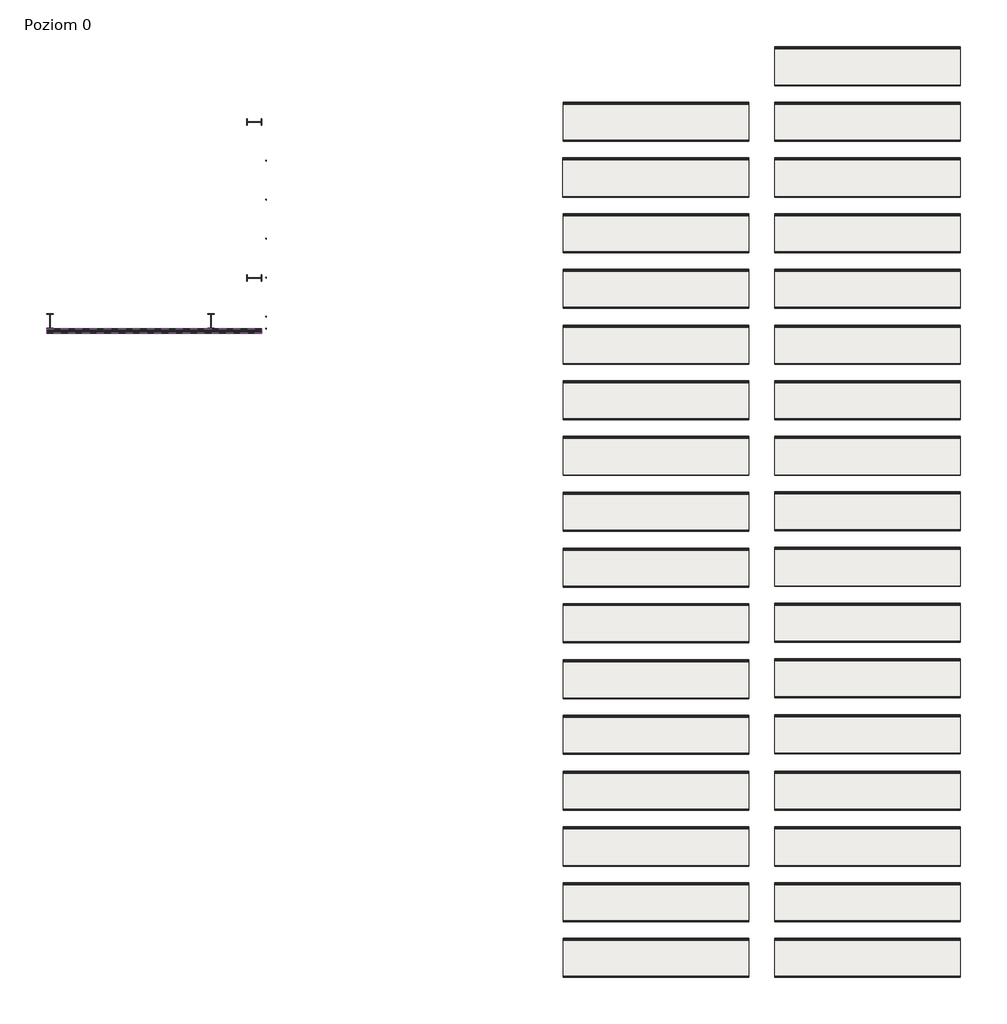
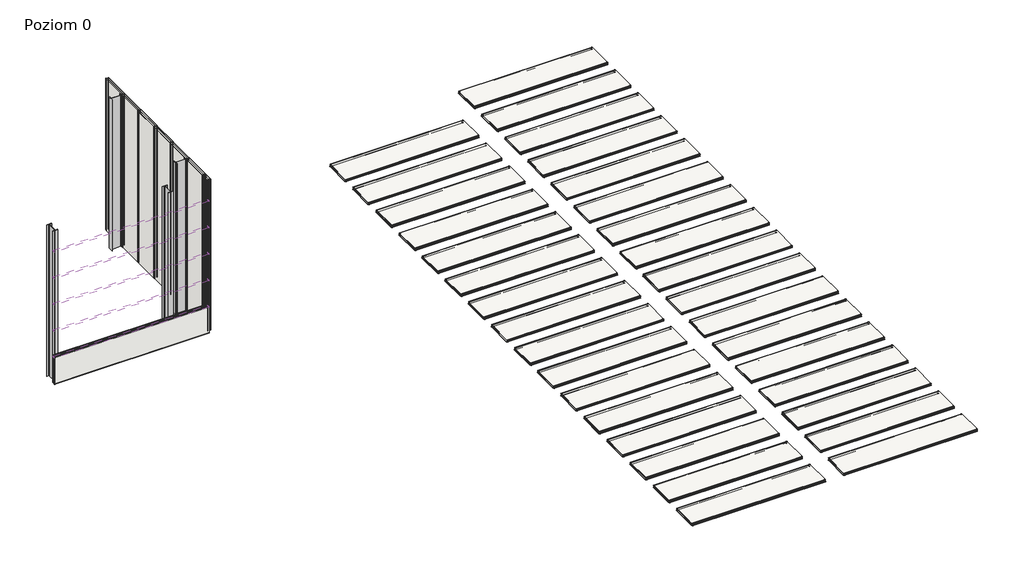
# One storey: 46 coverings, 4 columns.
"""IFC4 building model written with IfcOpenShell, lengths in millimetres."""

from ifc_helpers import new_model, si_unit, origin, place, context, project, spatial, transform, mapped, element, save
from components import standard1_standard_8d04f7a0, covering_c6c3e174, covering_1c25aafc, covering_c912f855, covering_c520f398, covering_51063ac3

model = new_model("IFC4")

# Units and contexts
model_context = context("Model", 3, world=origin())
ifc_project = project(units=[si_unit("LENGTHUNIT", "METRE", prefix="MILLI")], contexts=[model_context])

# Site, building, storey
site = spatial("IfcSite", under=ifc_project)
building = spatial("IfcBuilding", under=site)
storey = spatial("IfcBuildingStorey", under=building, Name="Poziom 0", Elevation=0.0)

# Columns
placement = place(None, origin())
standard1_standard_shape = standard1_standard_8d04f7a0(model_context)
element("IfcColumn", 1, ObjectType="Standard1 : Standard", at=placement, inside=storey, context=model_context, shape_type="MappedRepresentation", body=[
    mapped(standard1_standard_shape, transform((-652.7962443, -3943.6992704, 0.0), x_axis=(0.0, 1.0, 0.0), y_axis=(-1.0, 0.0, 0.0), z_axis=(0.0, 0.0, 1.0))),
])
element("IfcColumn", 2, ObjectType="Standard1 : Standard", at=placement, inside=storey, context=model_context, shape_type="MappedRepresentation", body=[
    mapped(standard1_standard_shape, transform((-652.7962443, -8143.6992704, 0.0), x_axis=(0.0, 1.0, 0.0), y_axis=(-1.0, 0.0, 0.0), z_axis=(0.0, 0.0, 1.0))),
])
element("IfcColumn", 3, ObjectType="Standard1 : Standard", at=placement, inside=storey, context=model_context, shape_type="MappedRepresentation", body=[
    mapped(standard1_standard_shape, transform((-6157.3962443, -9314.4059697, 0.0), x_axis=(1.0, 0.0, 0.0), y_axis=(0.0, 1.0, 0.0), z_axis=(0.0, 0.0, 1.0))),
])
element("IfcColumn", 4, ObjectType="Standard1 : Standard", at=placement, inside=storey, context=model_context, shape_type="MappedRepresentation", body=[
    mapped(standard1_standard_shape, transform((-1821.8962443, -9314.4059697, 0.0), x_axis=(1.0, 0.0, 0.0), y_axis=(0.0, 1.0, 0.0), z_axis=(0.0, 0.0, 1.0))),
])

# Coverings
covering_shape = covering_c6c3e174(model_context)
element("IfcCovering", 5, ObjectType="Wall sandwich panel SPW-H CORE PIR (single sheet) : -", at=placement, inside=storey, context=model_context, shape_type="MappedRepresentation", body=[
    mapped(covering_shape, transform((-327.8962443, -2858.6992702, 6000.0), x_axis=(0.0, 1.0, 0.0), y_axis=(0.0, 0.0, 1.0), z_axis=(1.0, 0.0, 0.0))),
])
element("IfcCovering", 6, ObjectType="Wall sandwich panel SPW-H CORE PIR (single sheet) : -", at=placement, inside=storey, context=model_context, shape_type="MappedRepresentation", body=[
    mapped(covering_shape, transform((-327.8962443, -4958.6992704, 6000.0), x_axis=(0.0, 1.0, 0.0), y_axis=(0.0, 0.0, 1.0), z_axis=(1.0, 0.0, 0.0))),
])
element("IfcCovering", 7, ObjectType="Wall sandwich panel SPW-H CORE PIR (single sheet) : -", at=placement, inside=storey, context=model_context, shape_type="MappedRepresentation", body=[
    mapped(covering_shape, transform((-327.8962443, -6008.6992704, 6000.0), x_axis=(0.0, 1.0, 0.0), y_axis=(0.0, 0.0, 1.0), z_axis=(1.0, 0.0, 0.0))),
])
element("IfcCovering", 8, ObjectType="Wall sandwich panel SPW-H CORE PIR (single sheet) : -", at=placement, inside=storey, context=model_context, shape_type="MappedRepresentation", body=[
    mapped(covering_shape, transform((-327.8962443, -7058.6992704, 6000.0), x_axis=(0.0, 1.0, 0.0), y_axis=(0.0, 0.0, 1.0), z_axis=(1.0, 0.0, 0.0))),
])
element("IfcCovering", 9, ObjectType="Wall sandwich panel SPW-H CORE PIR (single sheet) : -", at=placement, inside=storey, context=model_context, shape_type="MappedRepresentation", body=[
    mapped(covering_shape, transform((-327.8962443, -8108.6992704, 6000.0), x_axis=(0.0, 1.0, 0.0), y_axis=(0.0, 0.0, 1.0), z_axis=(1.0, 0.0, 0.0))),
])
element("IfcCovering", 10, ObjectType="Wall sandwich panel SPW-H CORE PIR (single sheet) : -", at=placement, inside=storey, context=model_context, shape_type="MappedRepresentation", body=[
    mapped(covering_shape, transform((-327.8962443, -3908.6992704, 6000.0), x_axis=(0.0, 1.0, 0.0), y_axis=(0.0, 0.0, 1.0), z_axis=(1.0, 0.0, 0.0))),
])
covering_2_shape = covering_1c25aafc(model_context)
element("IfcCovering", 11, ObjectType="Wall sandwich panel SPW-H CORE PIR (single sheet) : -", at=placement, inside=storey, context=model_context, shape_type="MappedRepresentation", body=[
    mapped(covering_2_shape, transform((-327.8962443, -9158.6992704, 6000.0), x_axis=(0.0, 1.0, 0.0), y_axis=(0.0, 0.0, 1.0), z_axis=(1.0, 0.0, 0.0))),
])
covering_3_shape = covering_c912f855(model_context)
element("IfcCovering", 12, ObjectType="Wall sandwich panel SPW-H CORE PIR (single sheet) : -", at=placement, inside=storey, context=model_context, shape_type="MappedRepresentation", body=[
    mapped(covering_3_shape, transform((-450.4527536, -9638.9059697, -35.0), x_axis=(0.0, 0.0, -1.0), y_axis=(1.0, 0.0, 0.0), z_axis=(0.0, -1.0, 0.0))),
])
element("IfcCovering", 13, ObjectType="Wall sandwich panel SPW-H CORE PIR (single sheet) : -", at=placement, inside=storey, context=model_context, shape_type="MappedRepresentation", body=[
    mapped(covering_3_shape, transform((-450.4527536, -9638.9059697, 1015.0), x_axis=(0.0, 0.0, -1.0), y_axis=(1.0, 0.0, 0.0), z_axis=(0.0, -1.0, 0.0))),
])
element("IfcCovering", 14, ObjectType="Wall sandwich panel SPW-H CORE PIR (single sheet) : -", at=placement, inside=storey, context=model_context, shape_type="MappedRepresentation", body=[
    mapped(covering_3_shape, transform((-450.4527536, -9638.9059697, 2065.0), x_axis=(0.0, 0.0, -1.0), y_axis=(1.0, 0.0, 0.0), z_axis=(0.0, -1.0, 0.0))),
])
element("IfcCovering", 15, ObjectType="Wall sandwich panel SPW-H CORE PIR (single sheet) : -", at=placement, inside=storey, context=model_context, shape_type="MappedRepresentation", body=[
    mapped(covering_3_shape, transform((-450.4527536, -9638.9059697, 3115.0), x_axis=(0.0, 0.0, -1.0), y_axis=(1.0, 0.0, 0.0), z_axis=(0.0, -1.0, 0.0))),
])
element("IfcCovering", 16, ObjectType="Wall sandwich panel SPW-H CORE PIR (single sheet) : -", at=placement, inside=storey, context=model_context, shape_type="MappedRepresentation", body=[
    mapped(covering_3_shape, transform((-450.4527536, -9638.9059697, 4165.0), x_axis=(0.0, 0.0, -1.0), y_axis=(1.0, 0.0, 0.0), z_axis=(0.0, -1.0, 0.0))),
])
covering_4_shape = covering_c520f398(model_context)
element("IfcCovering", 17, ObjectType="Wall sandwich panel SPW-H CORE PIR (single sheet) : -", at=placement, inside=storey, context=model_context, shape_type="MappedRepresentation", body=[
    mapped(covering_4_shape, transform((-450.4527536, -9638.9059697, 5215.0), x_axis=(0.0, 0.0, -1.0), y_axis=(1.0, 0.0, 0.0), z_axis=(0.0, -1.0, 0.0))),
])
covering_5_shape = covering_51063ac3(model_context)
element("IfcCovering", 18, ObjectType="Wall sandwich panel SPW-H CORE PIR (single sheet) : -", at=placement, inside=storey, context=model_context, shape_type="MappedRepresentation", body=[
    mapped(covering_5_shape, transform((12661.4641213, -4480.5974484, 100.0), x_axis=(0.0, -1.0, 0.0), y_axis=(1.0, 0.0, 0.0), z_axis=(0.0, 0.0, 1.0))),
])
element("IfcCovering", 19, ObjectType="Wall sandwich panel SPW-H CORE PIR (single sheet) : -", at=placement, inside=storey, context=model_context, shape_type="MappedRepresentation", body=[
    mapped(covering_5_shape, transform((12656.9489348, -5980.5974484, 100.0), x_axis=(0.0, -1.0, 0.0), y_axis=(1.0, 0.0, 0.0), z_axis=(0.0, 0.0, 1.0))),
])
element("IfcCovering", 20, ObjectType="Wall sandwich panel SPW-H CORE PIR (single sheet) : -", at=placement, inside=storey, context=model_context, shape_type="MappedRepresentation", body=[
    mapped(covering_5_shape, transform((12661.4641213, -7480.5974484, 100.0), x_axis=(0.0, -1.0, 0.0), y_axis=(1.0, 0.0, 0.0), z_axis=(0.0, 0.0, 1.0))),
])
element("IfcCovering", 21, ObjectType="Wall sandwich panel SPW-H CORE PIR (single sheet) : -", at=placement, inside=storey, context=model_context, shape_type="MappedRepresentation", body=[
    mapped(covering_5_shape, transform((12661.4641213, -8980.5974484, 100.0), x_axis=(0.0, -1.0, 0.0), y_axis=(1.0, 0.0, 0.0), z_axis=(0.0, 0.0, 1.0))),
])
element("IfcCovering", 22, ObjectType="Wall sandwich panel SPW-H CORE PIR (single sheet) : -", at=placement, inside=storey, context=model_context, shape_type="MappedRepresentation", body=[
    mapped(covering_5_shape, transform((12661.4641213, -10480.5974484, 100.0), x_axis=(0.0, -1.0, 0.0), y_axis=(1.0, 0.0, 0.0), z_axis=(0.0, 0.0, 1.0))),
])
element("IfcCovering", 23, ObjectType="Wall sandwich panel SPW-H CORE PIR (single sheet) : -", at=placement, inside=storey, context=model_context, shape_type="MappedRepresentation", body=[
    mapped(covering_5_shape, transform((12661.4641213, -11980.5974484, 100.0), x_axis=(0.0, -1.0, 0.0), y_axis=(1.0, 0.0, 0.0), z_axis=(0.0, 0.0, 1.0))),
])
element("IfcCovering", 24, ObjectType="Wall sandwich panel SPW-H CORE PIR (single sheet) : -", at=placement, inside=storey, context=model_context, shape_type="MappedRepresentation", body=[
    mapped(covering_5_shape, transform((12661.4641213, -13480.5974484, 100.0), x_axis=(0.0, -1.0, 0.0), y_axis=(1.0, 0.0, 0.0), z_axis=(0.0, 0.0, 1.0))),
])
element("IfcCovering", 25, ObjectType="Wall sandwich panel SPW-H CORE PIR (single sheet) : -", at=placement, inside=storey, context=model_context, shape_type="MappedRepresentation", body=[
    mapped(covering_5_shape, transform((12661.4641213, -14980.5974484, 100.0), x_axis=(0.0, -1.0, 0.0), y_axis=(1.0, 0.0, 0.0), z_axis=(0.0, 0.0, 1.0))),
])
element("IfcCovering", 26, ObjectType="Wall sandwich panel SPW-H CORE PIR (single sheet) : -", at=placement, inside=storey, context=model_context, shape_type="MappedRepresentation", body=[
    mapped(covering_5_shape, transform((12661.4641213, -16490.082932, 100.0), x_axis=(0.0, -1.0, 0.0), y_axis=(1.0, 0.0, 0.0), z_axis=(0.0, 0.0, 1.0))),
])
element("IfcCovering", 27, ObjectType="Wall sandwich panel SPW-H CORE PIR (single sheet) : -", at=placement, inside=storey, context=model_context, shape_type="MappedRepresentation", body=[
    mapped(covering_5_shape, transform((12661.4641213, -17990.082932, 100.0), x_axis=(0.0, -1.0, 0.0), y_axis=(1.0, 0.0, 0.0), z_axis=(0.0, 0.0, 1.0))),
])
element("IfcCovering", 28, ObjectType="Wall sandwich panel SPW-H CORE PIR (single sheet) : -", at=placement, inside=storey, context=model_context, shape_type="MappedRepresentation", body=[
    mapped(covering_5_shape, transform((12661.4641213, -19490.082932, 100.0), x_axis=(0.0, -1.0, 0.0), y_axis=(1.0, 0.0, 0.0), z_axis=(0.0, 0.0, 1.0))),
])
element("IfcCovering", 29, ObjectType="Wall sandwich panel SPW-H CORE PIR (single sheet) : -", at=placement, inside=storey, context=model_context, shape_type="MappedRepresentation", body=[
    mapped(covering_5_shape, transform((12661.4641213, -20990.082932, 100.0), x_axis=(0.0, -1.0, 0.0), y_axis=(1.0, 0.0, 0.0), z_axis=(0.0, 0.0, 1.0))),
])
element("IfcCovering", 30, ObjectType="Wall sandwich panel SPW-H CORE PIR (single sheet) : -", at=placement, inside=storey, context=model_context, shape_type="MappedRepresentation", body=[
    mapped(covering_5_shape, transform((12661.4641213, -22499.5684156, 100.0), x_axis=(0.0, -1.0, 0.0), y_axis=(1.0, 0.0, 0.0), z_axis=(0.0, 0.0, 1.0))),
])
element("IfcCovering", 31, ObjectType="Wall sandwich panel SPW-H CORE PIR (single sheet) : -", at=placement, inside=storey, context=model_context, shape_type="MappedRepresentation", body=[
    mapped(covering_5_shape, transform((12661.4641213, -23999.5684156, 100.0), x_axis=(0.0, -1.0, 0.0), y_axis=(1.0, 0.0, 0.0), z_axis=(0.0, 0.0, 1.0))),
])
element("IfcCovering", 32, ObjectType="Wall sandwich panel SPW-H CORE PIR (single sheet) : -", at=placement, inside=storey, context=model_context, shape_type="MappedRepresentation", body=[
    mapped(covering_5_shape, transform((12661.4641213, -25499.5684156, 100.0), x_axis=(0.0, -1.0, 0.0), y_axis=(1.0, 0.0, 0.0), z_axis=(0.0, 0.0, 1.0))),
])
element("IfcCovering", 33, ObjectType="Wall sandwich panel SPW-H CORE PIR (single sheet) : -", at=placement, inside=storey, context=model_context, shape_type="MappedRepresentation", body=[
    mapped(covering_5_shape, transform((12661.4641213, -26999.5684156, 100.0), x_axis=(0.0, -1.0, 0.0), y_axis=(1.0, 0.0, 0.0), z_axis=(0.0, 0.0, 1.0))),
])
element("IfcCovering", 34, ObjectType="Wall sandwich panel SPW-H CORE PIR (single sheet) : -", at=placement, inside=storey, context=model_context, shape_type="MappedRepresentation", body=[
    mapped(covering_5_shape, transform((18361.4641213, -4480.5974484, 100.0), x_axis=(0.0, -1.0, 0.0), y_axis=(1.0, 0.0, 0.0), z_axis=(0.0, 0.0, 1.0))),
])
element("IfcCovering", 35, ObjectType="Wall sandwich panel SPW-H CORE PIR (single sheet) : -", at=placement, inside=storey, context=model_context, shape_type="MappedRepresentation", body=[
    mapped(covering_5_shape, transform((18361.4641213, -5980.5974484, 100.0), x_axis=(0.0, -1.0, 0.0), y_axis=(1.0, 0.0, 0.0), z_axis=(0.0, 0.0, 1.0))),
])
element("IfcCovering", 36, ObjectType="Wall sandwich panel SPW-H CORE PIR (single sheet) : -", at=placement, inside=storey, context=model_context, shape_type="MappedRepresentation", body=[
    mapped(covering_5_shape, transform((18361.4641213, -7480.5974484, 100.0), x_axis=(0.0, -1.0, 0.0), y_axis=(1.0, 0.0, 0.0), z_axis=(0.0, 0.0, 1.0))),
])
element("IfcCovering", 37, ObjectType="Wall sandwich panel SPW-H CORE PIR (single sheet) : -", at=placement, inside=storey, context=model_context, shape_type="MappedRepresentation", body=[
    mapped(covering_5_shape, transform((18361.4641213, -8980.5974484, 100.0), x_axis=(0.0, -1.0, 0.0), y_axis=(1.0, 0.0, 0.0), z_axis=(0.0, 0.0, 1.0))),
])
element("IfcCovering", 38, ObjectType="Wall sandwich panel SPW-H CORE PIR (single sheet) : -", at=placement, inside=storey, context=model_context, shape_type="MappedRepresentation", body=[
    mapped(covering_5_shape, transform((18361.4641213, -10480.5974484, 100.0), x_axis=(0.0, -1.0, 0.0), y_axis=(1.0, 0.0, 0.0), z_axis=(0.0, 0.0, 1.0))),
])
element("IfcCovering", 39, ObjectType="Wall sandwich panel SPW-H CORE PIR (single sheet) : -", at=placement, inside=storey, context=model_context, shape_type="MappedRepresentation", body=[
    mapped(covering_5_shape, transform((18361.4641213, -11980.5974484, 100.0), x_axis=(0.0, -1.0, 0.0), y_axis=(1.0, 0.0, 0.0), z_axis=(0.0, 0.0, 1.0))),
])
element("IfcCovering", 40, ObjectType="Wall sandwich panel SPW-H CORE PIR (single sheet) : -", at=placement, inside=storey, context=model_context, shape_type="MappedRepresentation", body=[
    mapped(covering_5_shape, transform((18361.4641213, -13480.5974484, 100.0), x_axis=(0.0, -1.0, 0.0), y_axis=(1.0, 0.0, 0.0), z_axis=(0.0, 0.0, 1.0))),
])
element("IfcCovering", 41, ObjectType="Wall sandwich panel SPW-H CORE PIR (single sheet) : -", at=placement, inside=storey, context=model_context, shape_type="MappedRepresentation", body=[
    mapped(covering_5_shape, transform((18361.4641213, -14970.1735216, 100.0), x_axis=(0.0, -1.0, 0.0), y_axis=(1.0, 0.0, 0.0), z_axis=(0.0, 0.0, 1.0))),
])
element("IfcCovering", 42, ObjectType="Wall sandwich panel SPW-H CORE PIR (single sheet) : -", at=placement, inside=storey, context=model_context, shape_type="MappedRepresentation", body=[
    mapped(covering_5_shape, transform((18361.4641213, -16470.1735216, 100.0), x_axis=(0.0, -1.0, 0.0), y_axis=(1.0, 0.0, 0.0), z_axis=(0.0, 0.0, 1.0))),
])
element("IfcCovering", 43, ObjectType="Wall sandwich panel SPW-H CORE PIR (single sheet) : -", at=placement, inside=storey, context=model_context, shape_type="MappedRepresentation", body=[
    mapped(covering_5_shape, transform((18361.4641213, -17970.1735216, 100.0), x_axis=(0.0, -1.0, 0.0), y_axis=(1.0, 0.0, 0.0), z_axis=(0.0, 0.0, 1.0))),
])
element("IfcCovering", 44, ObjectType="Wall sandwich panel SPW-H CORE PIR (single sheet) : -", at=placement, inside=storey, context=model_context, shape_type="MappedRepresentation", body=[
    mapped(covering_5_shape, transform((18361.4641213, -19470.1735216, 100.0), x_axis=(0.0, -1.0, 0.0), y_axis=(1.0, 0.0, 0.0), z_axis=(0.0, 0.0, 1.0))),
])
element("IfcCovering", 45, ObjectType="Wall sandwich panel SPW-H CORE PIR (single sheet) : -", at=placement, inside=storey, context=model_context, shape_type="MappedRepresentation", body=[
    mapped(covering_5_shape, transform((18361.4641213, -22499.5684156, 100.0), x_axis=(0.0, -1.0, 0.0), y_axis=(1.0, 0.0, 0.0), z_axis=(0.0, 0.0, 1.0))),
])
element("IfcCovering", 46, ObjectType="Wall sandwich panel SPW-H CORE PIR (single sheet) : -", at=placement, inside=storey, context=model_context, shape_type="MappedRepresentation", body=[
    mapped(covering_5_shape, transform((18361.4641213, -23999.5684156, 100.0), x_axis=(0.0, -1.0, 0.0), y_axis=(1.0, 0.0, 0.0), z_axis=(0.0, 0.0, 1.0))),
])
element("IfcCovering", 47, ObjectType="Wall sandwich panel SPW-H CORE PIR (single sheet) : -", at=placement, inside=storey, context=model_context, shape_type="MappedRepresentation", body=[
    mapped(covering_5_shape, transform((18361.4641213, -25499.5684156, 100.0), x_axis=(0.0, -1.0, 0.0), y_axis=(1.0, 0.0, 0.0), z_axis=(0.0, 0.0, 1.0))),
])
element("IfcCovering", 48, ObjectType="Wall sandwich panel SPW-H CORE PIR (single sheet) : -", at=placement, inside=storey, context=model_context, shape_type="MappedRepresentation", body=[
    mapped(covering_5_shape, transform((18361.4641213, -26999.5684156, 100.0), x_axis=(0.0, -1.0, 0.0), y_axis=(1.0, 0.0, 0.0), z_axis=(0.0, 0.0, 1.0))),
])
element("IfcCovering", 49, ObjectType="Wall sandwich panel SPW-H CORE PIR (single sheet) : -", at=placement, inside=storey, context=model_context, shape_type="MappedRepresentation", body=[
    mapped(covering_5_shape, transform((18361.4641213, -2980.5974484, 100.0), x_axis=(0.0, -1.0, 0.0), y_axis=(1.0, 0.0, 0.0), z_axis=(0.0, 0.0, 1.0))),
])
element("IfcCovering", 50, ObjectType="Wall sandwich panel SPW-H CORE PIR (single sheet) : -", at=placement, inside=storey, context=model_context, shape_type="MappedRepresentation", body=[
    mapped(covering_5_shape, transform((18361.4641213, -20970.1735216, 100.0), x_axis=(0.0, -1.0, 0.0), y_axis=(1.0, 0.0, 0.0), z_axis=(0.0, 0.0, 1.0))),
])

save(model, "model.ifc")
